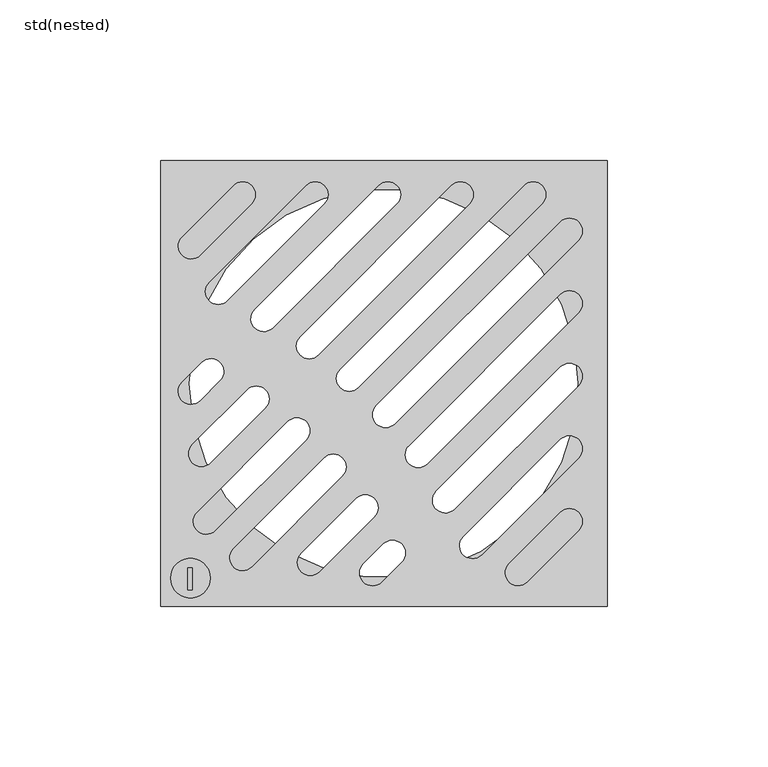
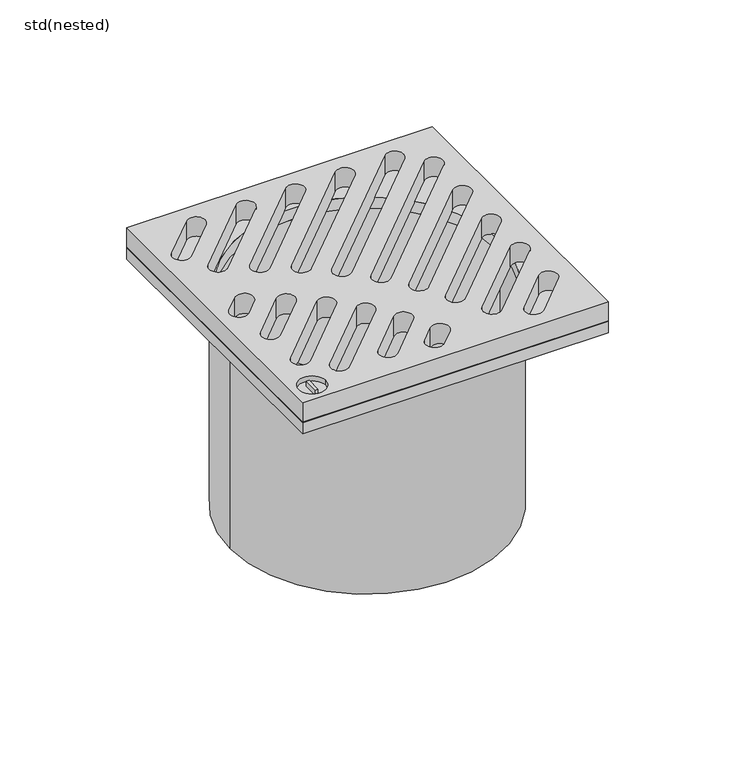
"""IFC4 building model written with IfcOpenShell, lengths in millimetres: sanitary terminal geometry, ZZZ_do_not_use_PF_UN_Top section with grating_ACO : std(nested)."""

from ifc_helpers import new_model, si_unit, point, frame, origin, origin_2d, place, context, project, spatial, polyline, circle_curve, trimmed, segment, composite_curve, outline, extrude, source, transform, mapped, element, save
from ifc_brep_helpers import plane_surface, revolved_surface, advanced_brep


def std_nested_aac93e22(model_context):
    return source(origin(), model_context, "Body", "SolidModel", [
        extrude(outline(polyline([(69.7462401, 69.5), (69.7462401, -69.5), (-69.5, -69.5), (-69.5, 69.5), (69.7462401, 69.5)]), holes=[composite_curve([segment(trimmed(circle_curve(origin_2d(), 60.5), [point((-60.5, 0.0))], [point((60.5, 0.0))], True, "CARTESIAN"), True, "CONTINUOUS"), segment(trimmed(circle_curve(origin_2d(), 60.5), [point((60.5, 0.0))], [point((-60.5, 0.0))], True, "CARTESIAN"), True, "CONTINUOUS")], self_intersect=False)]), frame((0.0, 0.0, -15.0563869), z_axis=(0.0, 0.0, 1.0), x_axis=(1.0, 0.0, 0.0)), (0.0, 0.0, 1.0), 5.4533621),
        advanced_brep(
        [(69.7462401, 69.5, 0.0), (-69.5, 69.5, 0.0), (-69.5, -69.5, 0.0), (69.7462401, -69.5, 0.0), (-58.0998075, -40.2230116, 0.0), (-29.8155362, -11.9387403, 0.0), (-24.158682, -17.5955946, 0.0), (-52.4429532, -45.8798658, 0.0), (-46.786099, -51.5367201, 0.0), (-18.5018277, -23.2524488, 0.0), (-12.8449735, -28.9093031, 0.0), (-41.1292447, -57.1935743, 0.0), (60.722194, 44.6578644, 0.0), (3.4396957, -12.6246339, 0.0), (-2.2171585, -6.9677796, 0.0), (55.0653397, 50.3147186, 0.0), (49.4084855, 55.9715729, 0.0), (-7.8740128, -1.3109254, 0.0), (-13.530867, 4.3459289, 0.0), (43.7516312, 61.6284271, 0.0), (-36.8441776, -7.6536732, 0.0), (-53.9420196, -24.7515152, 0.0), (-59.5988738, -19.0946609, 0.0), (-42.5010319, -1.996819, 0.0), (-50.9721711, 0.8457503, 0.0), (-57.1805686, -5.3626473, 0.0), (-62.8374229, 0.294207, 0.0), (-56.6290253, 6.5026045, 0.0), (-2.9030521, -41.5947987, 0.0), (-20.0008941, -58.6926407, 0.0), (-25.6577483, -53.0357864, 0.0), (-8.5599064, -35.9379445, 0.0), (5.5963714, -55.7227922, 0.0), (-0.6120261, -61.9311897, 0.0), (-6.2688804, -56.2743355, 0.0), (-0.0604829, -50.065938, 0.0), (60.722194, 22.0304474, 0.0), (13.586678, -25.1050686, 0.0), (7.9298238, -19.4482143, 0.0), (55.0653397, 27.6873016, 0.0), (60.722194, -0.5969696, 0.0), (22.0719594, -39.2472042, 0.0), (16.4151051, -33.59035, 0.0), (55.0653397, 5.0598846, 0.0), (60.722194, -23.2243866, 0.0), (30.5006722, -53.4459084, 0.0), (24.843818, -47.7890541, 0.0), (55.0653397, -17.5675324, 0.0), (60.722194, -45.8518036, 0.0), (44.6993764, -61.8746212, 0.0), (39.0425221, -56.217767, 0.0), (55.0653397, -40.1949494, 0.0), (26.7810685, 55.9715729, 0.0), (-20.3544475, 8.8360569, 0.0), (-26.0113017, 14.4929112, 0.0), (21.1242142, 61.6284271, 0.0), (4.1536515, 55.9715729, 0.0), (-34.4965831, 17.3213383, 0.0), (-40.1534373, 22.9781925, 0.0), (-1.5032028, 61.6284271, 0.0), (-18.4737655, 55.9715729, 0.0), (-48.6952873, 25.7500511, 0.0), (-54.3521415, 31.4069054, 0.0), (-24.1306198, 61.6284271, 0.0), (-41.1011825, 55.9715729, 0.0), (-57.1240001, 39.9487553, 0.0), (-62.7808543, 45.6056095, 0.0), (-46.7580368, 61.6284271, 0.0), (-54.0155166, -60.6900753, 0.0), (-66.3283052, -60.6900753, 0.0), (-59.664421, -64.421109, 0.0), (-59.664421, -57.5179867, 0.0), (-60.9366688, -57.5179867, 0.0), (-60.9366688, -64.421109, 0.0), (69.7462401, 69.5, -9.6030249), (69.7462401, -69.5, -9.6030249), (-69.5, -69.5, -9.6030249), (-69.5, 69.5, -9.6030249), (-29.8155362, -11.9387403, -9.6030249), (-58.0998075, -40.2230116, -9.6030249), (-52.4429532, -45.8798658, -9.6030249), (-24.158682, -17.5955946, -9.6030249), (-18.5018277, -23.2524488, -9.6030249), (-46.786099, -51.5367201, -9.6030249), (-41.1292447, -57.1935743, -9.6030249), (-12.8449735, -28.9093031, -9.6030249), (3.4396957, -12.6246339, -9.6030249), (60.722194, 44.6578644, -9.6030249), (55.0653397, 50.3147186, -9.6030249), (-2.2171585, -6.9677796, -9.6030249), (-7.8740128, -1.3109254, -9.6030249), (49.4084855, 55.9715729, -9.6030249), (43.7516312, 61.6284271, -9.6030249), (-13.530867, 4.3459289, -9.6030249), (-53.9420196, -24.7515152, -9.6030249), (-36.8441776, -7.6536732, -9.6030249), (-42.5010319, -1.996819, -9.6030249), (-59.5988738, -19.0946609, -9.6030249), (-57.1805686, -5.3626473, -9.6030249), (-50.9721711, 0.8457503, -9.6030249), (-56.6290253, 6.5026045, -9.6030249), (-62.8374229, 0.294207, -9.6030249), (-20.0008941, -58.6926407, -9.6030249), (-2.9030521, -41.5947987, -9.6030249), (-8.5599064, -35.9379445, -9.6030249), (-25.6577483, -53.0357864, -9.6030249), (-0.6120261, -61.9311897, -9.6030249), (5.5963714, -55.7227922, -9.6030249), (-0.0604829, -50.065938, -9.6030249), (-6.2688804, -56.2743355, -9.6030249), (13.586678, -25.1050686, -9.6030249), (60.722194, 22.0304474, -9.6030249), (55.0653397, 27.6873016, -9.6030249), (7.9298238, -19.4482143, -9.6030249), (22.0719594, -39.2472042, -9.6030249), (60.722194, -0.5969696, -9.6030249), (55.0653397, 5.0598846, -9.6030249), (16.4151051, -33.59035, -9.6030249), (30.5006722, -53.4459084, -9.6030249), (60.722194, -23.2243866, -9.6030249), (55.0653397, -17.5675324, -9.6030249), (24.843818, -47.7890541, -9.6030249), (44.6993764, -61.8746212, -9.6030249), (60.722194, -45.8518036, -9.6030249), (55.0653397, -40.1949494, -9.6030249), (39.0425221, -56.217767, -9.6030249), (-20.3544475, 8.8360569, -9.6030249), (26.7810685, 55.9715729, -9.6030249), (21.1242142, 61.6284271, -9.6030249), (-26.0113017, 14.4929112, -9.6030249), (-34.4965831, 17.3213383, -9.6030249), (4.1536515, 55.9715729, -9.6030249), (-1.5032028, 61.6284271, -9.6030249), (-40.1534373, 22.9781925, -9.6030249), (-48.6952873, 25.7500511, -9.6030249), (-18.4737655, 55.9715729, -9.6030249), (-24.1306198, 61.6284271, -9.6030249), (-54.3521415, 31.4069054, -9.6030249), (-57.1240001, 39.9487553, -9.6030249), (-41.1011825, 55.9715729, -9.6030249), (-46.7580368, 61.6284271, -9.6030249), (-62.7808543, 45.6056095, -9.6030249), (-66.3283052, -60.6900753, -2.4149336), (-54.0155166, -60.6900753, -2.4149336), (-59.664421, -57.5179867, -2.4149336), (-59.664421, -64.421109, -2.4149336), (-60.9366688, -64.421109, -2.4149336), (-60.9366688, -57.5179867, -2.4149336)],
        [
            (0, 1),
            (1, 2),
            (2, 3),
            (3, 0),
            (4, 5),
            (5, 6, circle_curve(frame((-26.9871091, -14.7671674, 0.0), z_axis=(0.0, 0.0, -1.0), x_axis=(1.0, 0.0, 0.0)), 4.0)),
            (6, 7),
            (7, 4, circle_curve(frame((-55.2713803, -43.0514387, 0.0), z_axis=(0.0, 0.0, -1.0), x_axis=(1.0, 0.0, 0.0)), 4.0)),
            (8, 9),
            (9, 10, circle_curve(frame((-15.6734006, -26.0808759, 0.0), z_axis=(0.0, 0.0, -1.0), x_axis=(1.0, 0.0, 0.0)), 4.0)),
            (10, 11),
            (11, 8, circle_curve(frame((-43.9576718, -54.3651472, 0.0), z_axis=(0.0, 0.0, -1.0), x_axis=(1.0, 0.0, 0.0)), 4.0)),
            (12, 13),
            (13, 14, circle_curve(frame((0.6112686, -9.7962068, 0.0), z_axis=(0.0, 0.0, -1.0), x_axis=(1.0, 0.0, 0.0)), 4.0)),
            (14, 15),
            (15, 12, circle_curve(frame((57.8937669, 47.4862915, 0.0), z_axis=(0.0, 0.0, -1.0), x_axis=(1.0, 0.0, 0.0)), 4.0)),
            (16, 17),
            (17, 18, circle_curve(frame((-10.7024399, 1.5175017, 0.0), z_axis=(0.0, 0.0, -1.0), x_axis=(1.0, 0.0, 0.0)), 4.0)),
            (18, 19),
            (19, 16, circle_curve(frame((46.5800584, 58.8, 0.0), z_axis=(0.0, 0.0, -1.0), x_axis=(1.0, 0.0, 0.0)), 4.0)),
            (20, 21),
            (21, 22, circle_curve(frame((-56.7704467, -21.9230881, 0.0), z_axis=(0.0, 0.0, -1.0), x_axis=(1.0, 0.0, 0.0)), 4.0)),
            (22, 23),
            (23, 20, circle_curve(frame((-39.6726047, -4.8252461, 0.0), z_axis=(0.0, 0.0, -1.0), x_axis=(1.0, 0.0, 0.0)), 4.0)),
            (24, 25),
            (25, 26, circle_curve(frame((-60.0089958, -2.5342201, 0.0), z_axis=(0.0, 0.0, -1.0), x_axis=(1.0, 0.0, 0.0)), 4.0)),
            (26, 27),
            (27, 24, circle_curve(frame((-53.8005982, 3.6741774, 0.0), z_axis=(0.0, 0.0, -1.0), x_axis=(1.0, 0.0, 0.0)), 4.0)),
            (28, 29),
            (29, 30, circle_curve(frame((-22.8293212, -55.8642136, 0.0), z_axis=(0.0, 0.0, -1.0), x_axis=(1.0, 0.0, 0.0)), 4.0)),
            (30, 31),
            (31, 28, circle_curve(frame((-5.7314792, -38.7663716, 0.0), z_axis=(0.0, 0.0, -1.0), x_axis=(1.0, 0.0, 0.0)), 4.0)),
            (32, 33),
            (33, 34, circle_curve(frame((-3.4404533, -59.1027626, 0.0), z_axis=(0.0, 0.0, -1.0), x_axis=(1.0, 0.0, 0.0)), 4.0)),
            (34, 35),
            (35, 32, circle_curve(frame((2.7679443, -52.8943651, 0.0), z_axis=(0.0, 0.0, -1.0), x_axis=(1.0, 0.0, 0.0)), 4.0)),
            (36, 37),
            (37, 38, circle_curve(frame((10.7582509, -22.2766415, 0.0), z_axis=(0.0, 0.0, -1.0), x_axis=(1.0, 0.0, 0.0)), 4.0)),
            (38, 39),
            (39, 36, circle_curve(frame((57.8937669, 24.8588745, 0.0), z_axis=(0.0, 0.0, -1.0), x_axis=(1.0, 0.0, 0.0)), 4.0)),
            (40, 41),
            (41, 42, circle_curve(frame((19.2435323, -36.4187771, 0.0), z_axis=(0.0, 0.0, -1.0), x_axis=(1.0, 0.0, 0.0)), 4.0)),
            (42, 43),
            (43, 40, circle_curve(frame((57.8937669, 2.2314575, 0.0), z_axis=(0.0, 0.0, -1.0), x_axis=(1.0, 0.0, 0.0)), 4.0)),
            (44, 45),
            (45, 46, circle_curve(frame((27.6722451, -50.6174812, 0.0), z_axis=(0.0, 0.0, -1.0), x_axis=(1.0, 0.0, 0.0)), 4.0)),
            (46, 47),
            (47, 44, circle_curve(frame((57.8937669, -20.3959595, 0.0), z_axis=(0.0, 0.0, -1.0), x_axis=(1.0, 0.0, 0.0)), 4.0)),
            (48, 49),
            (49, 50, circle_curve(frame((41.8709493, -59.0461941, 0.0), z_axis=(0.0, 0.0, -1.0), x_axis=(1.0, 0.0, 0.0)), 4.0)),
            (50, 51),
            (51, 48, circle_curve(frame((57.8937669, -43.0233765, 0.0), z_axis=(0.0, 0.0, -1.0), x_axis=(1.0, 0.0, 0.0)), 4.0)),
            (52, 53),
            (53, 54, circle_curve(frame((-23.1828746, 11.664484, 0.0), z_axis=(0.0, 0.0, -1.0), x_axis=(1.0, 0.0, 0.0)), 4.0)),
            (54, 55),
            (55, 52, circle_curve(frame((23.9526414, 58.8, 0.0), z_axis=(0.0, 0.0, -1.0), x_axis=(1.0, 0.0, 0.0)), 4.0)),
            (56, 57),
            (57, 58, circle_curve(frame((-37.3250102, 20.1497654, 0.0), z_axis=(0.0, 0.0, -1.0), x_axis=(1.0, 0.0, 0.0)), 4.0)),
            (58, 59),
            (59, 56, circle_curve(frame((1.3252244, 58.8, 0.0), z_axis=(0.0, 0.0, -1.0), x_axis=(1.0, 0.0, 0.0)), 4.0)),
            (60, 61),
            (61, 62, circle_curve(frame((-51.5237144, 28.5784782, 0.0), z_axis=(0.0, 0.0, -1.0), x_axis=(1.0, 0.0, 0.0)), 4.0)),
            (62, 63),
            (63, 60, circle_curve(frame((-21.3021926, 58.8, 0.0), z_axis=(0.0, 0.0, -1.0), x_axis=(1.0, 0.0, 0.0)), 4.0)),
            (64, 65),
            (65, 66, circle_curve(frame((-59.9524272, 42.7771824, 0.0), z_axis=(0.0, 0.0, -1.0), x_axis=(1.0, 0.0, 0.0)), 4.0)),
            (66, 67),
            (67, 64, circle_curve(frame((-43.9296096, 58.8, 0.0), z_axis=(0.0, 0.0, -1.0), x_axis=(1.0, 0.0, 0.0)), 4.0)),
            (68, 69, circle_curve(frame((-60.1719109, -60.6900753, 0.0), z_axis=(0.0, 0.0, -1.0), x_axis=(1.0, 0.0, 0.0)), 6.1563943)),
            (69, 68, circle_curve(frame((-60.1719109, -60.6900753, 0.0), z_axis=(0.0, 0.0, -1.0), x_axis=(1.0, 0.0, 0.0)), 6.1563943)),
            (70, 71),
            (71, 72),
            (72, 73),
            (73, 70),
            (74, 75),
            (75, 76),
            (76, 77),
            (77, 74),
            (78, 79),
            (79, 80, circle_curve(frame((-55.2713803, -43.0514387, -9.6030249), z_axis=(0.0, 0.0, 1.0), x_axis=(1.0, 0.0, 0.0)), 4.0)),
            (80, 81),
            (81, 78, circle_curve(frame((-26.9871091, -14.7671674, -9.6030249), z_axis=(0.0, 0.0, 1.0), x_axis=(1.0, 0.0, 0.0)), 4.0)),
            (82, 83),
            (83, 84, circle_curve(frame((-43.9576718, -54.3651472, -9.6030249), z_axis=(0.0, 0.0, 1.0), x_axis=(1.0, 0.0, 0.0)), 4.0)),
            (84, 85),
            (85, 82, circle_curve(frame((-15.6734006, -26.0808759, -9.6030249), z_axis=(0.0, 0.0, 1.0), x_axis=(1.0, 0.0, 0.0)), 4.0)),
            (86, 87),
            (87, 88, circle_curve(frame((57.8937669, 47.4862915, -9.6030249), z_axis=(0.0, 0.0, 1.0), x_axis=(1.0, 0.0, 0.0)), 4.0)),
            (88, 89),
            (89, 86, circle_curve(frame((0.6112686, -9.7962068, -9.6030249), z_axis=(0.0, 0.0, 1.0), x_axis=(1.0, 0.0, 0.0)), 4.0)),
            (90, 91),
            (91, 92, circle_curve(frame((46.5800584, 58.8, -9.6030249), z_axis=(0.0, 0.0, 1.0), x_axis=(1.0, 0.0, 0.0)), 4.0)),
            (92, 93),
            (93, 90, circle_curve(frame((-10.7024399, 1.5175017, -9.6030249), z_axis=(0.0, 0.0, 1.0), x_axis=(1.0, 0.0, 0.0)), 4.0)),
            (94, 95),
            (95, 96, circle_curve(frame((-39.6726047, -4.8252461, -9.6030249), z_axis=(0.0, 0.0, 1.0), x_axis=(1.0, 0.0, 0.0)), 4.0)),
            (96, 97),
            (97, 94, circle_curve(frame((-56.7704467, -21.9230881, -9.6030249), z_axis=(0.0, 0.0, 1.0), x_axis=(1.0, 0.0, 0.0)), 4.0)),
            (98, 99),
            (99, 100, circle_curve(frame((-53.8005982, 3.6741774, -9.6030249), z_axis=(0.0, 0.0, 1.0), x_axis=(1.0, 0.0, 0.0)), 4.0)),
            (100, 101),
            (101, 98, circle_curve(frame((-60.0089958, -2.5342201, -9.6030249), z_axis=(0.0, 0.0, 1.0), x_axis=(1.0, 0.0, 0.0)), 4.0)),
            (102, 103),
            (103, 104, circle_curve(frame((-5.7314792, -38.7663716, -9.6030249), z_axis=(0.0, 0.0, 1.0), x_axis=(1.0, 0.0, 0.0)), 4.0)),
            (104, 105),
            (105, 102, circle_curve(frame((-22.8293212, -55.8642136, -9.6030249), z_axis=(0.0, 0.0, 1.0), x_axis=(1.0, 0.0, 0.0)), 4.0)),
            (106, 107),
            (107, 108, circle_curve(frame((2.7679443, -52.8943651, -9.6030249), z_axis=(0.0, 0.0, 1.0), x_axis=(1.0, 0.0, 0.0)), 4.0)),
            (108, 109),
            (109, 106, circle_curve(frame((-3.4404533, -59.1027626, -9.6030249), z_axis=(0.0, 0.0, 1.0), x_axis=(1.0, 0.0, 0.0)), 4.0)),
            (110, 111),
            (111, 112, circle_curve(frame((57.8937669, 24.8588745, -9.6030249), z_axis=(0.0, 0.0, 1.0), x_axis=(1.0, 0.0, 0.0)), 4.0)),
            (112, 113),
            (113, 110, circle_curve(frame((10.7582509, -22.2766415, -9.6030249), z_axis=(0.0, 0.0, 1.0), x_axis=(1.0, 0.0, 0.0)), 4.0)),
            (114, 115),
            (115, 116, circle_curve(frame((57.8937669, 2.2314575, -9.6030249), z_axis=(0.0, 0.0, 1.0), x_axis=(1.0, 0.0, 0.0)), 4.0)),
            (116, 117),
            (117, 114, circle_curve(frame((19.2435323, -36.4187771, -9.6030249), z_axis=(0.0, 0.0, 1.0), x_axis=(1.0, 0.0, 0.0)), 4.0)),
            (118, 119),
            (119, 120, circle_curve(frame((57.8937669, -20.3959595, -9.6030249), z_axis=(0.0, 0.0, 1.0), x_axis=(1.0, 0.0, 0.0)), 4.0)),
            (120, 121),
            (121, 118, circle_curve(frame((27.6722451, -50.6174812, -9.6030249), z_axis=(0.0, 0.0, 1.0), x_axis=(1.0, 0.0, 0.0)), 4.0)),
            (122, 123),
            (123, 124, circle_curve(frame((57.8937669, -43.0233765, -9.6030249), z_axis=(0.0, 0.0, 1.0), x_axis=(1.0, 0.0, 0.0)), 4.0)),
            (124, 125),
            (125, 122, circle_curve(frame((41.8709493, -59.0461941, -9.6030249), z_axis=(0.0, 0.0, 1.0), x_axis=(1.0, 0.0, 0.0)), 4.0)),
            (126, 127),
            (127, 128, circle_curve(frame((23.9526414, 58.8, -9.6030249), z_axis=(0.0, 0.0, 1.0), x_axis=(1.0, 0.0, 0.0)), 4.0)),
            (128, 129),
            (129, 126, circle_curve(frame((-23.1828746, 11.664484, -9.6030249), z_axis=(0.0, 0.0, 1.0), x_axis=(1.0, 0.0, 0.0)), 4.0)),
            (130, 131),
            (131, 132, circle_curve(frame((1.3252244, 58.8, -9.6030249), z_axis=(0.0, 0.0, 1.0), x_axis=(1.0, 0.0, 0.0)), 4.0)),
            (132, 133),
            (133, 130, circle_curve(frame((-37.3250102, 20.1497654, -9.6030249), z_axis=(0.0, 0.0, 1.0), x_axis=(1.0, 0.0, 0.0)), 4.0)),
            (134, 135),
            (135, 136, circle_curve(frame((-21.3021926, 58.8, -9.6030249), z_axis=(0.0, 0.0, 1.0), x_axis=(1.0, 0.0, 0.0)), 4.0)),
            (136, 137),
            (137, 134, circle_curve(frame((-51.5237144, 28.5784782, -9.6030249), z_axis=(0.0, 0.0, 1.0), x_axis=(1.0, 0.0, 0.0)), 4.0)),
            (138, 139),
            (139, 140, circle_curve(frame((-43.9296096, 58.8, -9.6030249), z_axis=(0.0, 0.0, 1.0), x_axis=(1.0, 0.0, 0.0)), 4.0)),
            (140, 141),
            (141, 138, circle_curve(frame((-59.9524272, 42.7771824, -9.6030249), z_axis=(0.0, 0.0, 1.0), x_axis=(1.0, 0.0, 0.0)), 4.0)),
            (0, 74),
            (77, 1),
            (76, 2),
            (75, 3),
            (4, 79),
            (78, 5),
            (7, 80),
            (6, 81),
            (8, 83),
            (82, 9),
            (11, 84),
            (10, 85),
            (12, 87),
            (86, 13),
            (15, 88),
            (14, 89),
            (16, 91),
            (90, 17),
            (19, 92),
            (18, 93),
            (20, 95),
            (94, 21),
            (23, 96),
            (22, 97),
            (24, 99),
            (98, 25),
            (27, 100),
            (26, 101),
            (28, 103),
            (102, 29),
            (31, 104),
            (30, 105),
            (32, 107),
            (106, 33),
            (35, 108),
            (34, 109),
            (36, 111),
            (110, 37),
            (39, 112),
            (38, 113),
            (40, 115),
            (114, 41),
            (43, 116),
            (42, 117),
            (44, 119),
            (118, 45),
            (47, 120),
            (46, 121),
            (48, 123),
            (122, 49),
            (51, 124),
            (50, 125),
            (52, 127),
            (126, 53),
            (55, 128),
            (54, 129),
            (56, 131),
            (130, 57),
            (59, 132),
            (58, 133),
            (60, 135),
            (134, 61),
            (63, 136),
            (62, 137),
            (64, 139),
            (138, 65),
            (67, 140),
            (66, 141),
            (142, 143, circle_curve(frame((-60.1719109, -60.6900753, -2.4149336), z_axis=(0.0, 0.0, 1.0), x_axis=(1.0, 0.0, 0.0)), 6.1563943)),
            (143, 142, circle_curve(frame((-60.1719109, -60.6900753, -2.4149336), z_axis=(0.0, 0.0, 1.0), x_axis=(1.0, 0.0, 0.0)), 6.1563943)),
            (144, 145),
            (145, 146),
            (146, 147),
            (147, 144),
            (142, 69),
            (68, 143),
            (144, 71),
            (70, 145),
            (73, 146),
            (72, 147),
        ],
        [
            plane_surface(frame((-69.5, 69.5, 0.0), z_axis=(0.0, 0.0, 1.0), x_axis=(-1.0, 0.0, 0.0))),
            plane_surface(frame((-69.5, 69.5, -9.6030249), z_axis=(0.0, 0.0, -1.0), x_axis=(1.0, 0.0, 0.0))),
            plane_surface(frame((69.7462401, 69.5, 0.0), z_axis=(0.0, 1.0, 0.0), x_axis=(0.0, 0.0, -1.0))),
            plane_surface(frame((-69.5, 69.5, 0.0), z_axis=(-1.0, 0.0, 0.0), x_axis=(0.0, 0.0, -1.0))),
            plane_surface(frame((-69.5, -69.5, 0.0), z_axis=(0.0, -1.0, 0.0), x_axis=(0.0, 0.0, -1.0))),
            plane_surface(frame((69.7462401, -69.5, 0.0), z_axis=(1.0, 0.0, 0.0), x_axis=(0.0, 0.0, -1.0))),
            plane_surface(frame((-29.8155362, -11.9387403, 0.0), z_axis=(0.7071067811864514, -0.7071067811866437, 0.0), x_axis=(0.0, 0.0, -1.0))),
            revolved_surface(polyline([(-51.2713803, -43.0514387, 0.0), (-51.2713803, -43.0514387, -9.6030249)]), (-55.2713803, -43.0514387, -9.6030249), (0.0, 0.0, 1.0)),
            plane_surface(frame((-52.4429532, -45.8798658, 0.0), z_axis=(-0.7071067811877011, 0.7071067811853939, 0.0), x_axis=(0.0, 0.0, -1.0))),
            revolved_surface(polyline([(-22.9871091, -14.7671674, 0.0), (-22.9871091, -14.7671674, -9.6030249)]), (-26.9871091, -14.7671674, -9.6030249), (0.0, 0.0, 1.0)),
            plane_surface(frame((-18.5018277, -23.2524488, 0.0), z_axis=(0.7071067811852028, -0.7071067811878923, 0.0), x_axis=(0.0, 0.0, -1.0))),
            revolved_surface(polyline([(-39.9576718, -54.3651472, 0.0), (-39.9576718, -54.3651472, -9.6030249)]), (-43.9576718, -54.3651472, 0.0), (0.0, 0.0, 1.0)),
            plane_surface(frame((-41.1292447, -57.1935743, 0.0), z_axis=(-0.707106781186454, 0.7071067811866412, 0.0), x_axis=(0.0, 0.0, -1.0))),
            revolved_surface(polyline([(-11.6734006, -26.0808759, 0.0), (-11.6734006, -26.0808759, -9.6030249)]), (-15.6734006, -26.0808759, 0.0), (0.0, 0.0, 1.0)),
            plane_surface(frame((3.4396957, -12.6246339, 0.0), z_axis=(-0.7071067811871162, 0.7071067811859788, 0.0), x_axis=(0.0, 0.0, -1.0))),
            revolved_surface(polyline([(61.8937669, 47.4862915, 0.0), (61.8937669, 47.4862915, -9.6030249)]), (57.8937669, 47.4862915, 0.0), (0.0, 0.0, 1.0)),
            plane_surface(frame((55.0653397, 50.3147186, 0.0), z_axis=(0.7071067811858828, -0.7071067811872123, 0.0), x_axis=(0.0, 0.0, -1.0))),
            revolved_surface(polyline([(4.6112686, -9.7962068, 0.0), (4.6112686, -9.7962068, -9.6030249)]), (0.6112686, -9.7962068, 0.0), (0.0, 0.0, 1.0)),
            plane_surface(frame((-7.8740128, -1.3109254, 0.0), z_axis=(-0.7071067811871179, 0.7071067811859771, 0.0), x_axis=(0.0, 0.0, -1.0))),
            revolved_surface(polyline([(50.5800584, 58.8, 0.0), (50.5800584, 58.8, -9.6030249)]), (46.5800584, 58.8, 0.0), (0.0, 0.0, 1.0)),
            plane_surface(frame((43.7516312, 61.6284271, 0.0), z_axis=(0.7071067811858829, -0.7071067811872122, 0.0), x_axis=(0.0, 0.0, -1.0))),
            revolved_surface(polyline([(-6.7024399, 1.5175017, 0.0), (-6.7024399, 1.5175017, -9.6030249)]), (-10.7024399, 1.5175017, 0.0), (0.0, 0.0, 1.0)),
            plane_surface(frame((-53.9420196, -24.7515152, 0.0), z_axis=(-0.7071067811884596, 0.7071067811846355, 0.0), x_axis=(0.0, 0.0, -1.0))),
            revolved_surface(polyline([(-35.6726047, -4.8252461, 0.0), (-35.6726047, -4.8252461, -9.6030249)]), (-39.6726047, -4.8252461, 0.0), (0.0, 0.0, 1.0)),
            plane_surface(frame((-42.5010319, -1.996819, 0.0), z_axis=(0.7071067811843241, -0.7071067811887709, 0.0), x_axis=(0.0, 0.0, -1.0))),
            revolved_surface(polyline([(-52.7704467, -21.9230881, 0.0), (-52.7704467, -21.9230881, -9.6030249)]), (-56.7704467, -21.9230881, 0.0), (0.0, 0.0, 1.0)),
            plane_surface(frame((-57.1805686, -5.3626473, 0.0), z_axis=(-0.7071067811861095, 0.7071067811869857, 0.0), x_axis=(0.0, 0.0, -1.0))),
            revolved_surface(polyline([(-49.8005982, 3.6741774, 0.0), (-49.8005982, 3.6741774, -9.6030249)]), (-53.8005982, 3.6741774, 0.0), (0.0, 0.0, 1.0)),
            plane_surface(frame((-56.6290253, 6.5026045, 0.0), z_axis=(0.7071067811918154, -0.7071067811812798, 0.0), x_axis=(0.0, 0.0, -1.0))),
            revolved_surface(polyline([(-56.0089958, -2.5342201, 0.0), (-56.0089958, -2.5342201, -9.6030249)]), (-60.0089958, -2.5342201, 0.0), (0.0, 0.0, 1.0)),
            plane_surface(frame((-20.0008941, -58.6926407, 0.0), z_axis=(-0.7071067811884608, 0.7071067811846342, 0.0), x_axis=(0.0, 0.0, -1.0))),
            revolved_surface(polyline([(-1.7314791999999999, -38.7663716, 0.0), (-1.7314791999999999, -38.7663716, -9.6030249)]), (-5.7314792, -38.7663716, 0.0), (0.0, 0.0, 1.0)),
            plane_surface(frame((-8.5599064, -35.9379445, 0.0), z_axis=(0.7071067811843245, -0.7071067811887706, 0.0), x_axis=(0.0, 0.0, -1.0))),
            revolved_surface(polyline([(-18.8293212, -55.8642136, 0.0), (-18.8293212, -55.8642136, -9.6030249)]), (-22.8293212, -55.8642136, 0.0), (0.0, 0.0, 1.0)),
            plane_surface(frame((-0.6120261, -61.9311897, 0.0), z_axis=(-0.7071067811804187, 0.7071067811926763, 0.0), x_axis=(0.0, 0.0, -1.0))),
            revolved_surface(polyline([(6.7679443, -52.8943651, 0.0), (6.7679443, -52.8943651, -9.6030249)]), (2.7679443, -52.8943651, 0.0), (0.0, 0.0, 1.0)),
            plane_surface(frame((-0.0604829, -50.065938, 0.0), z_axis=(0.707106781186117, -0.707106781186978, 0.0), x_axis=(0.0, 0.0, -1.0))),
            revolved_surface(polyline([(0.5595466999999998, -59.1027626, 0.0), (0.5595466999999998, -59.1027626, -9.6030249)]), (-3.4404533, -59.1027626, 0.0), (0.0, 0.0, 1.0)),
            plane_surface(frame((13.586678, -25.1050686, 0.0), z_axis=(-0.7071067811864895, 0.7071067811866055, 0.0), x_axis=(0.0, 0.0, -1.0))),
            revolved_surface(polyline([(61.8937669, 24.8588745, 0.0), (61.8937669, 24.8588745, -9.6030249)]), (57.8937669, 24.8588745, 0.0), (0.0, 0.0, 1.0)),
            plane_surface(frame((55.0653397, 27.6873016, 0.0), z_axis=(0.70710678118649, -0.7071067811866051, 0.0), x_axis=(0.0, 0.0, -1.0))),
            revolved_surface(polyline([(14.7582509, -22.2766415, 0.0), (14.7582509, -22.2766415, -9.6030249)]), (10.7582509, -22.2766415, 0.0), (0.0, 0.0, 1.0)),
            plane_surface(frame((22.0719594, -39.2472042, 0.0), z_axis=(-0.7071067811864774, 0.7071067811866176, 0.0), x_axis=(0.0, 0.0, -1.0))),
            revolved_surface(polyline([(61.8937669, 2.2314575, 0.0), (61.8937669, 2.2314575, -9.6030249)]), (57.8937669, 2.2314575, 0.0), (0.0, 0.0, 1.0)),
            plane_surface(frame((55.0653397, 5.0598846, 0.0), z_axis=(0.7071067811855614, -0.7071067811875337, 0.0), x_axis=(0.0, 0.0, -1.0))),
            revolved_surface(polyline([(23.2435323, -36.4187771, 0.0), (23.2435323, -36.4187771, -9.6030249)]), (19.2435323, -36.4187771, 0.0), (0.0, 0.0, 1.0)),
            plane_surface(frame((30.5006722, -53.4459084, 0.0), z_axis=(-0.7071067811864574, 0.7071067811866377, 0.0), x_axis=(0.0, 0.0, -1.0))),
            revolved_surface(polyline([(61.8937669, -20.3959595, 0.0), (61.8937669, -20.3959595, -9.6030249)]), (57.8937669, -20.3959595, 0.0), (0.0, 0.0, 1.0)),
            plane_surface(frame((55.0653397, -17.5675324, 0.0), z_axis=(0.7071067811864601, -0.7071067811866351, 0.0), x_axis=(0.0, 0.0, -1.0))),
            revolved_surface(polyline([(31.6722451, -50.6174812, 0.0), (31.6722451, -50.6174812, -9.6030249)]), (27.6722451, -50.6174812, 0.0), (0.0, 0.0, 1.0)),
            plane_surface(frame((44.6993764, -61.8746212, 0.0), z_axis=(-0.7071067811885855, 0.7071067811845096, 0.0), x_axis=(0.0, 0.0, -1.0))),
            revolved_surface(polyline([(61.8937669, -43.0233765, 0.0), (61.8937669, -43.0233765, -9.6030249)]), (57.8937669, -43.0233765, 0.0), (0.0, 0.0, 1.0)),
            plane_surface(frame((55.0653397, -40.1949494, 0.0), z_axis=(0.7071067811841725, -0.7071067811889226, 0.0), x_axis=(0.0, 0.0, -1.0))),
            revolved_surface(polyline([(45.8709493, -59.0461941, 0.0), (45.8709493, -59.0461941, -9.6030249)]), (41.8709493, -59.0461941, 0.0), (0.0, 0.0, 1.0)),
            plane_surface(frame((-20.3544475, 8.8360569, 0.0), z_axis=(-0.7071067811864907, 0.7071067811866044, 0.0), x_axis=(0.0, 0.0, -1.0))),
            revolved_surface(polyline([(27.9526414, 58.8, 0.0), (27.9526414, 58.8, -9.6030249)]), (23.9526414, 58.8, 0.0), (0.0, 0.0, 1.0)),
            plane_surface(frame((21.1242142, 61.6284271, 0.0), z_axis=(0.7071067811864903, -0.7071067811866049, 0.0), x_axis=(0.0, 0.0, -1.0))),
            revolved_surface(polyline([(-19.1828746, 11.664484, 0.0), (-19.1828746, 11.664484, -9.6030249)]), (-23.1828746, 11.664484, 0.0), (0.0, 0.0, 1.0)),
            plane_surface(frame((-34.4965831, 17.3213383, 0.0), z_axis=(-0.7071067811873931, 0.707106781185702, 0.0), x_axis=(0.0, 0.0, -1.0))),
            revolved_surface(polyline([(5.3252244, 58.8, 0.0), (5.3252244, 58.8, -9.6030249)]), (1.3252244, 58.8, 0.0), (0.0, 0.0, 1.0)),
            plane_surface(frame((-1.5032028, 61.6284271, 0.0), z_axis=(0.7071067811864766, -0.7071067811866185, 0.0), x_axis=(0.0, 0.0, -1.0))),
            revolved_surface(polyline([(-33.3250102, 20.1497654, 0.0), (-33.3250102, 20.1497654, -9.6030249)]), (-37.3250102, 20.1497654, 0.0), (0.0, 0.0, 1.0)),
            plane_surface(frame((-48.6952873, 25.7500511, 0.0), z_axis=(-0.7071067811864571, 0.7071067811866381, 0.0), x_axis=(0.0, 0.0, -1.0))),
            revolved_surface(polyline([(-17.3021926, 58.8, 0.0), (-17.3021926, 58.8, -9.6030249)]), (-21.3021926, 58.8, 0.0), (0.0, 0.0, 1.0)),
            plane_surface(frame((-24.1306198, 61.6284271, 0.0), z_axis=(0.7071067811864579, -0.7071067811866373, 0.0), x_axis=(0.0, 0.0, -1.0))),
            revolved_surface(polyline([(-47.5237144, 28.5784782, 0.0), (-47.5237144, 28.5784782, -9.6030249)]), (-51.5237144, 28.5784782, 0.0), (0.0, 0.0, 1.0)),
            plane_surface(frame((-57.1240001, 39.9487553, 0.0), z_axis=(-0.7071067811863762, 0.7071067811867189, 0.0), x_axis=(0.0, 0.0, -1.0))),
            revolved_surface(polyline([(-39.9296096, 58.8, 0.0), (-39.9296096, 58.8, -9.6030249)]), (-43.9296096, 58.8, 0.0), (0.0, 0.0, 1.0)),
            plane_surface(frame((-46.7580368, 61.6284271, 0.0), z_axis=(0.7071067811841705, -0.7071067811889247, 0.0), x_axis=(0.0, 0.0, -1.0))),
            revolved_surface(polyline([(-55.9524272, 42.7771824, 0.0), (-55.9524272, 42.7771824, -9.6030249)]), (-59.9524272, 42.7771824, 0.0), (0.0, 0.0, 1.0)),
            plane_surface(frame((-54.0155166, -60.6900753, -2.4149336), z_axis=(0.0, 0.0, 1.0), x_axis=(0.0, -1.0, 0.0))),
            revolved_surface(polyline([(-54.0155166, -60.6900753, 0.0), (-54.0155166, -60.6900753, -2.4149336)]), (-60.1719109, -60.6900753, -2.4149336), (0.0, 0.0, 1.0)),
            plane_surface(frame((-59.664421, -57.5179867, 0.0), z_axis=(1.0, 0.0, 0.0), x_axis=(0.0, 0.0, -1.0))),
            plane_surface(frame((-59.664421, -64.421109, 0.0), z_axis=(0.0, -1.0, 0.0), x_axis=(0.0, 0.0, -1.0))),
            plane_surface(frame((-60.9366688, -64.421109, 0.0), z_axis=(-1.0, 0.0, 0.0), x_axis=(0.0, 0.0, -1.0))),
            plane_surface(frame((-60.9366688, -57.5179867, 0.0), z_axis=(0.0, 1.0, 0.0), x_axis=(0.0, 0.0, -1.0))),
        ],
        [
            (0, [[1, 2, 3, 4], [5, 6, 7, 8], [9, 10, 11, 12], [13, 14, 15, 16], [17, 18, 19, 20], [21, 22, 23, 24], [25, 26, 27, 28], [29, 30, 31, 32], [33, 34, 35, 36], [37, 38, 39, 40], [41, 42, 43, 44], [45, 46, 47, 48], [49, 50, 51, 52], [53, 54, 55, 56], [57, 58, 59, 60], [61, 62, 63, 64], [65, 66, 67, 68], [69, 70]]),
            (0, [[71, 72, 73, 74]]),
            (1, [[75, 76, 77, 78], [79, 80, 81, 82], [83, 84, 85, 86], [87, 88, 89, 90], [91, 92, 93, 94], [95, 96, 97, 98], [99, 100, 101, 102], [103, 104, 105, 106], [107, 108, 109, 110], [111, 112, 113, 114], [115, 116, 117, 118], [119, 120, 121, 122], [123, 124, 125, 126], [127, 128, 129, 130], [131, 132, 133, 134], [135, 136, 137, 138], [139, 140, 141, 142]]),
            (2, [[-1, 143, -78, 144]]),
            (3, [[-2, -144, -77, 145]]),
            (4, [[-3, -145, -76, 146]]),
            (5, [[-4, -146, -75, -143]]),
            (6, [[147, -79, 148, -5]]),
            (7, [[-147, -8, 149, -80]]),
            (8, [[-149, -7, 150, -81]]),
            (9, [[-148, -82, -150, -6]]),
            (10, [[151, -83, 152, -9]]),
            (11, [[-151, -12, 153, -84]]),
            (12, [[-153, -11, 154, -85]]),
            (13, [[-152, -86, -154, -10]]),
            (14, [[155, -87, 156, -13]]),
            (15, [[-155, -16, 157, -88]]),
            (16, [[-157, -15, 158, -89]]),
            (17, [[-156, -90, -158, -14]]),
            (18, [[159, -91, 160, -17]]),
            (19, [[-159, -20, 161, -92]]),
            (20, [[-161, -19, 162, -93]]),
            (21, [[-160, -94, -162, -18]]),
            (22, [[163, -95, 164, -21]]),
            (23, [[-163, -24, 165, -96]]),
            (24, [[-165, -23, 166, -97]]),
            (25, [[-164, -98, -166, -22]]),
            (26, [[167, -99, 168, -25]]),
            (27, [[-167, -28, 169, -100]]),
            (28, [[-169, -27, 170, -101]]),
            (29, [[-168, -102, -170, -26]]),
            (30, [[171, -103, 172, -29]]),
            (31, [[-171, -32, 173, -104]]),
            (32, [[-173, -31, 174, -105]]),
            (33, [[-172, -106, -174, -30]]),
            (34, [[175, -107, 176, -33]]),
            (35, [[-175, -36, 177, -108]]),
            (36, [[-177, -35, 178, -109]]),
            (37, [[-176, -110, -178, -34]]),
            (38, [[179, -111, 180, -37]]),
            (39, [[-179, -40, 181, -112]]),
            (40, [[-181, -39, 182, -113]]),
            (41, [[-180, -114, -182, -38]]),
            (42, [[183, -115, 184, -41]]),
            (43, [[-183, -44, 185, -116]]),
            (44, [[-185, -43, 186, -117]]),
            (45, [[-184, -118, -186, -42]]),
            (46, [[187, -119, 188, -45]]),
            (47, [[-187, -48, 189, -120]]),
            (48, [[-189, -47, 190, -121]]),
            (49, [[-188, -122, -190, -46]]),
            (50, [[191, -123, 192, -49]]),
            (51, [[-191, -52, 193, -124]]),
            (52, [[-193, -51, 194, -125]]),
            (53, [[-192, -126, -194, -50]]),
            (54, [[195, -127, 196, -53]]),
            (55, [[-195, -56, 197, -128]]),
            (56, [[-197, -55, 198, -129]]),
            (57, [[-196, -130, -198, -54]]),
            (58, [[199, -131, 200, -57]]),
            (59, [[-199, -60, 201, -132]]),
            (60, [[-201, -59, 202, -133]]),
            (61, [[-200, -134, -202, -58]]),
            (62, [[203, -135, 204, -61]]),
            (63, [[-203, -64, 205, -136]]),
            (64, [[-205, -63, 206, -137]]),
            (65, [[-204, -138, -206, -62]]),
            (66, [[207, -139, 208, -65]]),
            (67, [[-207, -68, 209, -140]]),
            (68, [[-209, -67, 210, -141]]),
            (69, [[-208, -142, -210, -66]]),
            (70, [[211, 212], [213, 214, 215, 216]]),
            (71, [[-211, 217, -69, 218]]),
            (71, [[-212, -218, -70, -217]]),
            (72, [[-213, 219, -71, 220]]),
            (73, [[-214, -220, -74, 221]]),
            (74, [[-215, -221, -73, 222]]),
            (75, [[-216, -222, -72, -219]]),
        ],
    ),
        extrude(outline(composite_curve([segment(trimmed(circle_curve(origin_2d(), 62.5), [point((-62.5, 0.0))], [point((62.5, 0.0))], False, "CARTESIAN"), True, "CONTINUOUS"), segment(trimmed(circle_curve(origin_2d(), 62.5), [point((62.5, 0.0))], [point((-62.5, 0.0))], False, "CARTESIAN"), True, "CONTINUOUS")], self_intersect=False), holes=[composite_curve([segment(trimmed(circle_curve(origin_2d(), 60.5), [point((-60.5, 0.0))], [point((60.5, 0.0))], True, "CARTESIAN"), True, "CONTINUOUS"), segment(trimmed(circle_curve(origin_2d(), 60.5), [point((60.5, 0.0))], [point((-60.5, 0.0))], True, "CARTESIAN"), True, "CONTINUOUS")], self_intersect=False)]), frame((0.0, 0.0, -115.0), z_axis=(0.0, 0.0, 1.0), x_axis=(1.0, 0.0, 0.0)), (0.0, 0.0, 1.0), 100.0),
    ])


if __name__ == "__main__":
    model = new_model("IFC4")
    model_context = context("Model", 3, world=origin())
    ifc_project = project(units=[si_unit("LENGTHUNIT", "METRE", prefix="MILLI")], contexts=[model_context])
    site = spatial("IfcSite", under=ifc_project)
    building = spatial("IfcBuilding", under=site)
    placement = place(None, origin())
    std_nested_shape = std_nested_aac93e22(model_context)
    element("IfcSanitaryTerminal", 1, ObjectType="ZZZ_do_not_use_PF_UN_Top section with grating_ACO : std(nested)", at=placement, inside=building, context=model_context, shape_type="MappedRepresentation", body=[
        mapped(std_nested_shape, transform((0.0, 0.0, 0.0), x_axis=(1.0, 0.0, 0.0), y_axis=(0.0, 1.0, 0.0), z_axis=(0.0, 0.0, 1.0))),
    ])
    save(model, "model.ifc")
